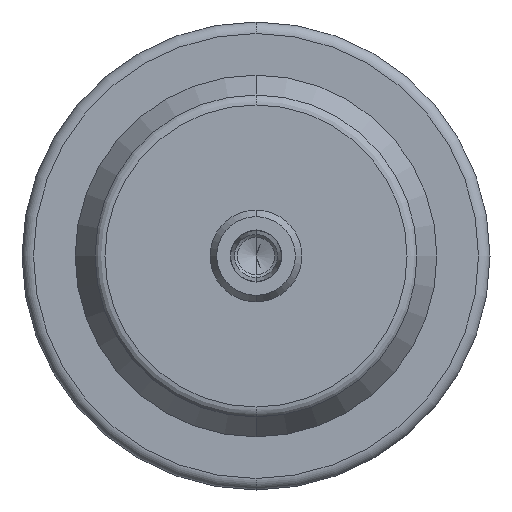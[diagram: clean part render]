
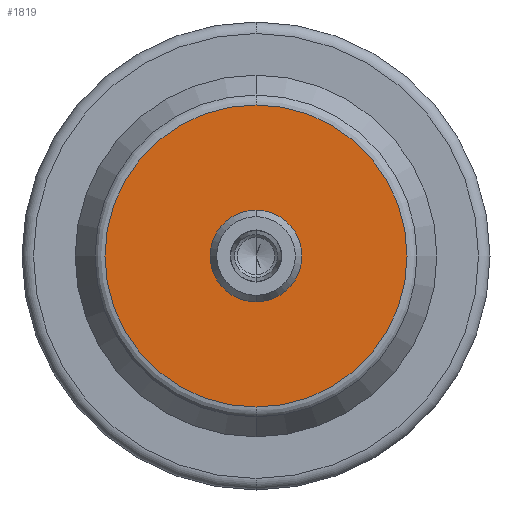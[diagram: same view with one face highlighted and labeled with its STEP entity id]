
A CAD part, front view. The second image highlights one B-rep face of the part: STEP entity #1819.
In plain terms, the highlighted planar face has unit normal (0, -1, 0).
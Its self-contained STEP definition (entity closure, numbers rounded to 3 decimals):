
#132 = ORIENTED_EDGE ( 'NONE', *, *, #3384, .F. ) ;
#397 = DIRECTION ( 'NONE',  ( 0., 0., 1. ) ) ;
#432 = AXIS2_PLACEMENT_3D ( 'NONE', #3849, #3874, #3452 ) ;
#447 = CARTESIAN_POINT ( 'NONE',  ( 0., 0., -7.75 ) ) ;
#755 = DIRECTION ( 'NONE',  ( 0., 1., 0. ) ) ;
#818 = CARTESIAN_POINT ( 'NONE',  ( 0., 0., 0. ) ) ;
#866 = CARTESIAN_POINT ( 'NONE',  ( 0., 0., 0. ) ) ;
#921 = CIRCLE ( 'NONE', #2677, 7.75 ) ;
#1088 = EDGE_LOOP ( 'NONE', ( #1199, #3685 ) ) ;
#1199 = ORIENTED_EDGE ( 'NONE', *, *, #1850, .T. ) ;
#1276 = AXIS2_PLACEMENT_3D ( 'NONE', #866, #3573, #1618 ) ;
#1420 = FACE_BOUND ( 'NONE', #1088, .T. ) ;
#1463 = CIRCLE ( 'NONE', #3658, 7.75 ) ;
#1533 = CARTESIAN_POINT ( 'NONE',  ( 0., 0., 26.304 ) ) ;
#1569 = CIRCLE ( 'NONE', #432, 26.304 ) ;
#1585 = VERTEX_POINT ( 'NONE', #3060 ) ;
#1618 = DIRECTION ( 'NONE',  ( 0., 0., -1. ) ) ;
#1819 = ADVANCED_FACE ( 'NONE', ( #1420, #2197 ), #4704, .T. ) ;
#1850 = EDGE_CURVE ( 'NONE', #3790, #2129, #921, .T. ) ;
#1855 = DIRECTION ( 'NONE',  ( 0., 1., 0. ) ) ;
#1978 = AXIS2_PLACEMENT_3D ( 'NONE', #818, #755, #397 ) ;
#2129 = VERTEX_POINT ( 'NONE', #447 ) ;
#2197 = FACE_OUTER_BOUND ( 'NONE', #2988, .T. ) ;
#2349 = ORIENTED_EDGE ( 'NONE', *, *, #3827, .F. ) ;
#2469 = CIRCLE ( 'NONE', #1978, 26.304 ) ;
#2621 = CARTESIAN_POINT ( 'NONE',  ( 0., 0., 0. ) ) ;
#2677 = AXIS2_PLACEMENT_3D ( 'NONE', #4564, #3515, #4954 ) ;
#2778 = EDGE_CURVE ( 'NONE', #2129, #3790, #1463, .T. ) ;
#2890 = VERTEX_POINT ( 'NONE', #1533 ) ;
#2988 = EDGE_LOOP ( 'NONE', ( #132, #2349 ) ) ;
#3060 = CARTESIAN_POINT ( 'NONE',  ( 0., 0., -26.304 ) ) ;
#3384 = EDGE_CURVE ( 'NONE', #2890, #1585, #2469, .T. ) ;
#3407 = CARTESIAN_POINT ( 'NONE',  ( 0., 0., 7.75 ) ) ;
#3452 = DIRECTION ( 'NONE',  ( 0., 0., 1. ) ) ;
#3515 = DIRECTION ( 'NONE',  ( 0., 1., 0. ) ) ;
#3573 = DIRECTION ( 'NONE',  ( 0., -1., 0. ) ) ;
#3658 = AXIS2_PLACEMENT_3D ( 'NONE', #2621, #1855, #4525 ) ;
#3685 = ORIENTED_EDGE ( 'NONE', *, *, #2778, .T. ) ;
#3790 = VERTEX_POINT ( 'NONE', #3407 ) ;
#3827 = EDGE_CURVE ( 'NONE', #1585, #2890, #1569, .T. ) ;
#3849 = CARTESIAN_POINT ( 'NONE',  ( 0., 0., 0. ) ) ;
#3874 = DIRECTION ( 'NONE',  ( 0., 1., 0. ) ) ;
#4525 = DIRECTION ( 'NONE',  ( 0., 0., 1. ) ) ;
#4564 = CARTESIAN_POINT ( 'NONE',  ( 0., 0., 0. ) ) ;
#4704 = PLANE ( 'NONE',  #1276 ) ;
#4954 = DIRECTION ( 'NONE',  ( 0., 0., 1. ) ) ;
